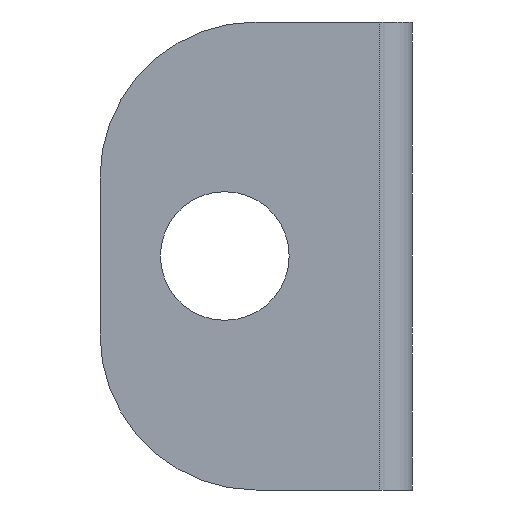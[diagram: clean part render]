
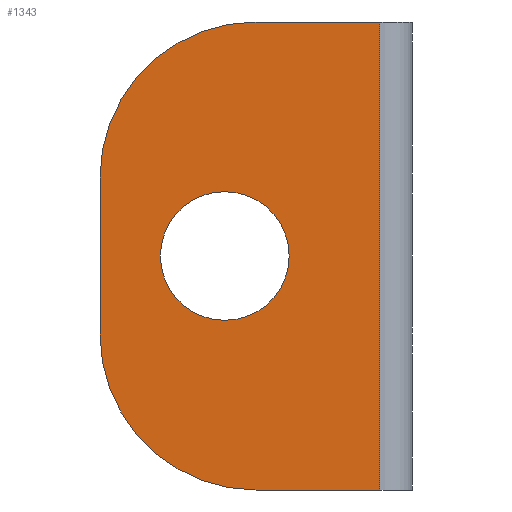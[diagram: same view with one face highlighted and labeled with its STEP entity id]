
A CAD part, left-side view. The second image highlights one B-rep face of the part: STEP entity #1343.
In plain terms, the highlighted planar face has unit normal (-1, 0, 0).
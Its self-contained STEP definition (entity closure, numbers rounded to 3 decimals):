
#7 = VERTEX_POINT ( 'NONE', #902 ) ;
#8 = VERTEX_POINT ( 'NONE', #910 ) ;
#198 = VECTOR ( 'NONE', #913, 1000. ) ;
#202 = LINE ( 'NONE', #901, #198 ) ;
#207 = CIRCLE ( 'NONE', #798, 8.25 ) ;
#237 = CIRCLE ( 'NONE', #724, 20. ) ;
#252 = FACE_BOUND ( 'NONE', #448, .T. ) ;
#261 = FACE_OUTER_BOUND ( 'NONE', #464, .T. ) ;
#312 = VERTEX_POINT ( 'NONE', #850 ) ;
#316 = VERTEX_POINT ( 'NONE', #884 ) ;
#324 = VERTEX_POINT ( 'NONE', #852 ) ;
#327 = VERTEX_POINT ( 'NONE', #868 ) ;
#344 = CIRCLE ( 'NONE', #780, 8.25 ) ;
#368 = CIRCLE ( 'NONE', #746, 20. ) ;
#383 = LINE ( 'NONE', #831, #386 ) ;
#386 = VECTOR ( 'NONE', #958, 1000. ) ;
#413 = VERTEX_POINT ( 'NONE', #870 ) ;
#448 = EDGE_LOOP ( 'NONE', ( #579, #578 ) ) ;
#464 = EDGE_LOOP ( 'NONE', ( #577, #582, #581, #580, #585, #584 ) ) ;
#577 = ORIENTED_EDGE ( 'NONE', *, *, #711, .T. ) ;
#578 = ORIENTED_EDGE ( 'NONE', *, *, #607, .T. ) ;
#579 = ORIENTED_EDGE ( 'NONE', *, *, #676, .T. ) ;
#580 = ORIENTED_EDGE ( 'NONE', *, *, #656, .F. ) ;
#581 = ORIENTED_EDGE ( 'NONE', *, *, #659, .T. ) ;
#582 = ORIENTED_EDGE ( 'NONE', *, *, #691, .T. ) ;
#584 = ORIENTED_EDGE ( 'NONE', *, *, #815, .T. ) ;
#585 = ORIENTED_EDGE ( 'NONE', *, *, #608, .F. ) ;
#601 = VERTEX_POINT ( 'NONE', #840 ) ;
#607 = EDGE_CURVE ( 'NONE', #316, #7, #207, .T. ) ;
#608 = EDGE_CURVE ( 'NONE', #324, #312, #202, .T. ) ;
#656 = EDGE_CURVE ( 'NONE', #312, #327, #1308, .T. ) ;
#659 = EDGE_CURVE ( 'NONE', #601, #327, #1313, .T. ) ;
#676 = EDGE_CURVE ( 'NONE', #7, #316, #344, .T. ) ;
#691 = EDGE_CURVE ( 'NONE', #8, #601, #368, .T. ) ;
#711 = EDGE_CURVE ( 'NONE', #413, #8, #383, .T. ) ;
#724 = AXIS2_PLACEMENT_3D ( 'NONE', #1142, #1141, #966 ) ;
#746 = AXIS2_PLACEMENT_3D ( 'NONE', #1224, #1223, #1204 ) ;
#780 = AXIS2_PLACEMENT_3D ( 'NONE', #1115, #1239, #1171 ) ;
#793 = AXIS2_PLACEMENT_3D ( 'NONE', #941, #1126, #975 ) ;
#798 = AXIS2_PLACEMENT_3D ( 'NONE', #903, #916, #851 ) ;
#815 = EDGE_CURVE ( 'NONE', #324, #413, #237, .T. ) ;
#831 = CARTESIAN_POINT ( 'NONE',  ( 0., 40., 30. ) ) ;
#840 = CARTESIAN_POINT ( 'NONE',  ( 0., 20., -30. ) ) ;
#850 = CARTESIAN_POINT ( 'NONE',  ( 0., 4.15, 30. ) ) ;
#851 = DIRECTION ( 'NONE',  ( 0., 1., 0. ) ) ;
#852 = CARTESIAN_POINT ( 'NONE',  ( 0., 20., 30. ) ) ;
#868 = CARTESIAN_POINT ( 'NONE',  ( 0., 4.15, -30. ) ) ;
#870 = CARTESIAN_POINT ( 'NONE',  ( 0., 40., 10. ) ) ;
#884 = CARTESIAN_POINT ( 'NONE',  ( 0., 15.75, 0. ) ) ;
#901 = CARTESIAN_POINT ( 'NONE',  ( 0., 40., 30. ) ) ;
#902 = CARTESIAN_POINT ( 'NONE',  ( 0., 32.25, 0. ) ) ;
#903 = CARTESIAN_POINT ( 'NONE',  ( 0., 24., 0. ) ) ;
#910 = CARTESIAN_POINT ( 'NONE',  ( 0., 40., -10. ) ) ;
#913 = DIRECTION ( 'NONE',  ( 0., -1., 0. ) ) ;
#916 = DIRECTION ( 'NONE',  ( 1., 0., 0. ) ) ;
#941 = CARTESIAN_POINT ( 'NONE',  ( 0., 40., 30. ) ) ;
#958 = DIRECTION ( 'NONE',  ( 0., 0., -1. ) ) ;
#966 = DIRECTION ( 'NONE',  ( 0., 1., 0. ) ) ;
#975 = DIRECTION ( 'NONE',  ( 0., 1., 0. ) ) ;
#1004 = CARTESIAN_POINT ( 'NONE',  ( 0., 40., -30. ) ) ;
#1009 = DIRECTION ( 'NONE',  ( 0., -1., 0. ) ) ;
#1094 = PLANE ( 'NONE',  #793 ) ;
#1115 = CARTESIAN_POINT ( 'NONE',  ( 0., 24., 0. ) ) ;
#1126 = DIRECTION ( 'NONE',  ( 1., 0., 0. ) ) ;
#1141 = DIRECTION ( 'NONE',  ( -1., 0., 0. ) ) ;
#1142 = CARTESIAN_POINT ( 'NONE',  ( 0., 20., 10. ) ) ;
#1171 = DIRECTION ( 'NONE',  ( 0., 1., 0. ) ) ;
#1176 = CARTESIAN_POINT ( 'NONE',  ( 0., 4.15, 30. ) ) ;
#1178 = DIRECTION ( 'NONE',  ( 0., 0., -1. ) ) ;
#1204 = DIRECTION ( 'NONE',  ( 0., 1., 0. ) ) ;
#1223 = DIRECTION ( 'NONE',  ( -1., 0., 0. ) ) ;
#1224 = CARTESIAN_POINT ( 'NONE',  ( 0., 20., -10. ) ) ;
#1239 = DIRECTION ( 'NONE',  ( 1., 0., 0. ) ) ;
#1308 = LINE ( 'NONE', #1176, #1311 ) ;
#1311 = VECTOR ( 'NONE', #1178, 1000. ) ;
#1313 = LINE ( 'NONE', #1004, #1316 ) ;
#1316 = VECTOR ( 'NONE', #1009, 1000. ) ;
#1343 = ADVANCED_FACE ( 'NONE', ( #252, #261 ), #1094, .F. ) ;
